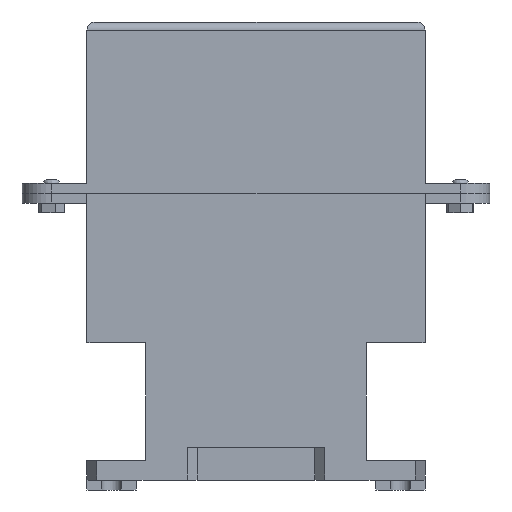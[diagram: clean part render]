
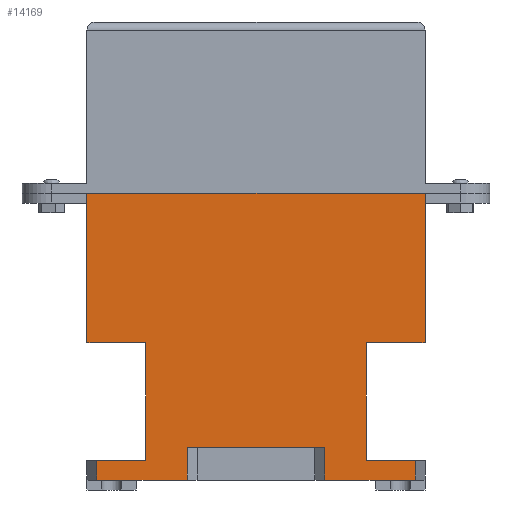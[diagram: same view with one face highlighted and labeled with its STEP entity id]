
A CAD part, left-side view. The second image highlights one B-rep face of the part: STEP entity #14169.
In plain terms, the highlighted planar face has unit normal (-1, 0, 0).
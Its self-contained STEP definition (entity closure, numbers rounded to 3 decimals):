
#1381=FACE_OUTER_BOUND('',#2195,.T.);
#2195=EDGE_LOOP('',(#11680,#11681,#11682,#11683,#11684,#11685,#11686,#11687,
#11688,#11689,#11690,#11691,#11692,#11693,#11694,#11695));
#3364=LINE('',#23873,#4884);
#3368=LINE('',#23882,#4888);
#3372=LINE('',#23890,#4892);
#3396=LINE('',#23954,#4916);
#3420=LINE('',#24002,#4940);
#3423=LINE('',#24007,#4943);
#3424=LINE('',#24009,#4944);
#3427=LINE('',#24016,#4947);
#3437=LINE('',#24044,#4957);
#3438=LINE('',#24046,#4958);
#3439=LINE('',#24048,#4959);
#3440=LINE('',#24050,#4960);
#3441=LINE('',#24052,#4961);
#3442=LINE('',#24054,#4962);
#3443=LINE('',#24056,#4963);
#3444=LINE('',#24057,#4964);
#4884=VECTOR('',#16689,10.);
#4888=VECTOR('',#16697,10.);
#4892=VECTOR('',#16701,10.);
#4916=VECTOR('',#16743,10.);
#4940=VECTOR('',#16789,10.);
#4943=VECTOR('',#16794,10.);
#4944=VECTOR('',#16797,10.);
#4947=VECTOR('',#16804,10.);
#4957=VECTOR('',#16826,10.);
#4958=VECTOR('',#16827,10.);
#4959=VECTOR('',#16828,10.);
#4960=VECTOR('',#16829,10.);
#4961=VECTOR('',#16830,10.);
#4962=VECTOR('',#16831,10.);
#4963=VECTOR('',#16832,10.);
#4964=VECTOR('',#16833,10.);
#6389=VERTEX_POINT('',#23866);
#6392=VERTEX_POINT('',#23871);
#6395=VERTEX_POINT('',#23881);
#6398=VERTEX_POINT('',#23887);
#6399=VERTEX_POINT('',#23889);
#6430=VERTEX_POINT('',#23953);
#6443=VERTEX_POINT('',#24001);
#6444=VERTEX_POINT('',#24005);
#6446=VERTEX_POINT('',#24015);
#6458=VERTEX_POINT('',#24043);
#6459=VERTEX_POINT('',#24045);
#6460=VERTEX_POINT('',#24047);
#6461=VERTEX_POINT('',#24049);
#6462=VERTEX_POINT('',#24051);
#6463=VERTEX_POINT('',#24053);
#6464=VERTEX_POINT('',#24055);
#8204=EDGE_CURVE('',#6392,#6389,#3364,.T.);
#8208=EDGE_CURVE('',#6389,#6395,#3368,.T.);
#8212=EDGE_CURVE('',#6398,#6399,#3372,.T.);
#8244=EDGE_CURVE('',#6399,#6430,#3396,.T.);
#8268=EDGE_CURVE('',#6443,#6395,#3420,.T.);
#8271=EDGE_CURVE('',#6398,#6444,#3423,.T.);
#8272=EDGE_CURVE('',#6444,#6443,#3424,.T.);
#8275=EDGE_CURVE('',#6446,#6430,#3427,.T.);
#8289=EDGE_CURVE('',#6392,#6458,#3437,.T.);
#8290=EDGE_CURVE('',#6458,#6459,#3438,.T.);
#8291=EDGE_CURVE('',#6459,#6460,#3439,.T.);
#8292=EDGE_CURVE('',#6461,#6460,#3440,.T.);
#8293=EDGE_CURVE('',#6461,#6462,#3441,.T.);
#8294=EDGE_CURVE('',#6462,#6463,#3442,.T.);
#8295=EDGE_CURVE('',#6463,#6464,#3443,.T.);
#8296=EDGE_CURVE('',#6464,#6446,#3444,.T.);
#11680=ORIENTED_EDGE('',*,*,#8204,.F.);
#11681=ORIENTED_EDGE('',*,*,#8289,.T.);
#11682=ORIENTED_EDGE('',*,*,#8290,.T.);
#11683=ORIENTED_EDGE('',*,*,#8291,.T.);
#11684=ORIENTED_EDGE('',*,*,#8292,.F.);
#11685=ORIENTED_EDGE('',*,*,#8293,.T.);
#11686=ORIENTED_EDGE('',*,*,#8294,.T.);
#11687=ORIENTED_EDGE('',*,*,#8295,.T.);
#11688=ORIENTED_EDGE('',*,*,#8296,.T.);
#11689=ORIENTED_EDGE('',*,*,#8275,.T.);
#11690=ORIENTED_EDGE('',*,*,#8244,.F.);
#11691=ORIENTED_EDGE('',*,*,#8212,.F.);
#11692=ORIENTED_EDGE('',*,*,#8271,.T.);
#11693=ORIENTED_EDGE('',*,*,#8272,.T.);
#11694=ORIENTED_EDGE('',*,*,#8268,.T.);
#11695=ORIENTED_EDGE('',*,*,#8208,.F.);
#13379=PLANE('',#14826);
#14169=ADVANCED_FACE('',(#1381),#13379,.T.);
#14826=AXIS2_PLACEMENT_3D('',#24042,#16824,#16825);
#16689=DIRECTION('',(0.,0.,-1.));
#16697=DIRECTION('',(0.,1.,0.));
#16701=DIRECTION('',(0.,1.,0.));
#16743=DIRECTION('',(0.,0.,1.));
#16789=DIRECTION('',(0.,0.,-1.));
#16794=DIRECTION('',(0.,0.,1.));
#16797=DIRECTION('',(0.,-1.,0.));
#16804=DIRECTION('',(0.,1.,0.));
#16824=DIRECTION('center_axis',(-1.,0.,0.));
#16825=DIRECTION('ref_axis',(0.,1.,0.));
#16826=DIRECTION('',(0.,1.,0.));
#16827=DIRECTION('',(0.,0.,1.));
#16828=DIRECTION('',(0.,-1.,0.));
#16829=DIRECTION('',(0.,0.,-1.));
#16830=DIRECTION('',(0.,1.,0.));
#16831=DIRECTION('',(0.,0.,-1.));
#16832=DIRECTION('',(0.,-1.,0.));
#16833=DIRECTION('',(0.,0.,-1.));
#23866=CARTESIAN_POINT('',(-10.,5.,-146.));
#23871=CARTESIAN_POINT('',(-10.,5.,-136.));
#23873=CARTESIAN_POINT('',(-10.,5.,0.));
#23881=CARTESIAN_POINT('',(-10.,51.,-146.));
#23882=CARTESIAN_POINT('',(-10.,0.,-146.));
#23887=CARTESIAN_POINT('',(-10.,121.,-146.));
#23889=CARTESIAN_POINT('',(-10.,167.,-146.));
#23890=CARTESIAN_POINT('',(-10.,0.,-146.));
#23953=CARTESIAN_POINT('',(-10.,167.,-136.));
#23954=CARTESIAN_POINT('',(-10.,167.,0.));
#24001=CARTESIAN_POINT('',(-10.,51.,-129.25));
#24002=CARTESIAN_POINT('',(-10.,51.,-73.));
#24005=CARTESIAN_POINT('',(-10.,121.,-129.25));
#24007=CARTESIAN_POINT('',(-10.,121.,-73.));
#24009=CARTESIAN_POINT('',(-10.,43.,-129.25));
#24015=CARTESIAN_POINT('',(-10.,142.,-136.));
#24016=CARTESIAN_POINT('',(-10.,71.,-136.));
#24042=CARTESIAN_POINT('Origin',(-10.,0.,0.));
#24043=CARTESIAN_POINT('',(-10.,30.,-136.));
#24044=CARTESIAN_POINT('',(-10.,0.,-136.));
#24045=CARTESIAN_POINT('',(-10.,30.,-76.));
#24046=CARTESIAN_POINT('',(-10.,30.,-68.));
#24047=CARTESIAN_POINT('',(-10.,0.,-76.));
#24048=CARTESIAN_POINT('',(-10.,15.,-76.));
#24049=CARTESIAN_POINT('',(-10.,0.,0.));
#24050=CARTESIAN_POINT('',(-10.,0.,0.));
#24051=CARTESIAN_POINT('',(-10.,172.,0.));
#24052=CARTESIAN_POINT('',(-10.,0.,0.));
#24053=CARTESIAN_POINT('',(-10.,172.,-76.));
#24054=CARTESIAN_POINT('',(-10.,172.,0.));
#24055=CARTESIAN_POINT('',(-10.,142.,-76.));
#24056=CARTESIAN_POINT('',(-10.,86.,-76.));
#24057=CARTESIAN_POINT('',(-10.,142.,-38.));
